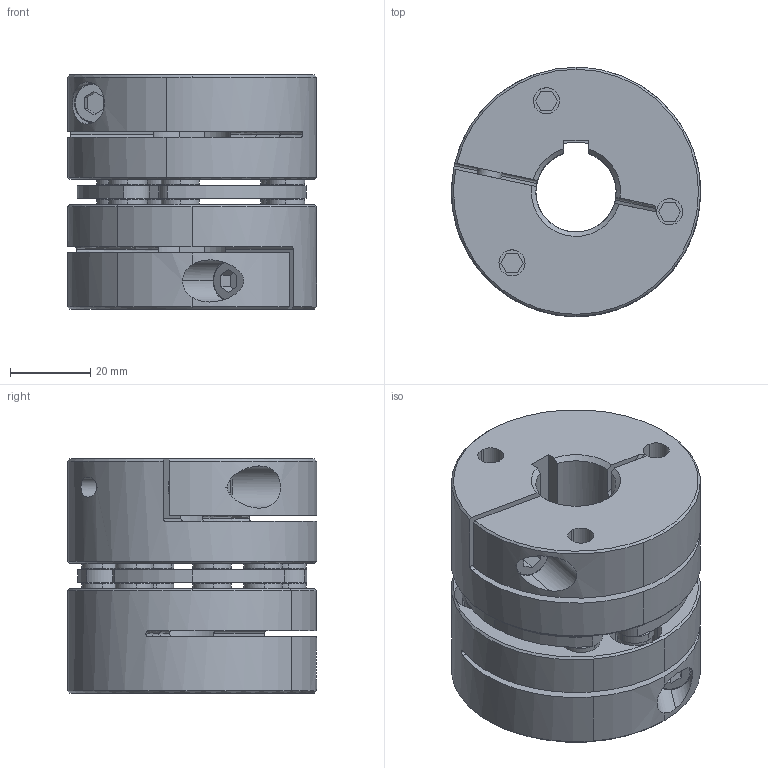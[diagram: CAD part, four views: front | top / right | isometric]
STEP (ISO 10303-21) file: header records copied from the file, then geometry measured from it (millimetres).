
FILE_DESCRIPTION((''),'2;1');
FILE_NAME('6A22-A1C','2019-02-14T',('SYSTEM'),(''),'PRO/ENGINEER BY PARAMETRIC TECHNOLOGY CORPORATION, 2016360','PRO/ENGINEER BY PARAMETRIC TECHNOLOGY CORPORATION, 2016360','');
FILE_SCHEMA(('AUTOMOTIVE_DESIGN { 1 0 10303 214 1 1 1 1 }'));
Length unit declared in the file: inch
Products named in the file (1): 6A22-A1C
Bounding box: 62 x 62 x 58.25 mm (x, y, z)
Volume: 129826.5 mm3; surface area: 45042 mm2
Topology: 1 solids, 11 shells, 600 faces, 1737 edges, 1186 vertices
Faces by surface type: cylinder 290, plane 136, cone 128, torus 46
Entity records: 26178 total; most frequent: DIRECTION 3919, CARTESIAN_POINT 3875, ORIENTED_EDGE 3438, PRESENTATION_STYLE_ASSIGNMENT 1741, STYLED_ITEM 1720, CURVE_STYLE 1719, EDGE_CURVE 1719, AXIS2_PLACEMENT_3D 1661
